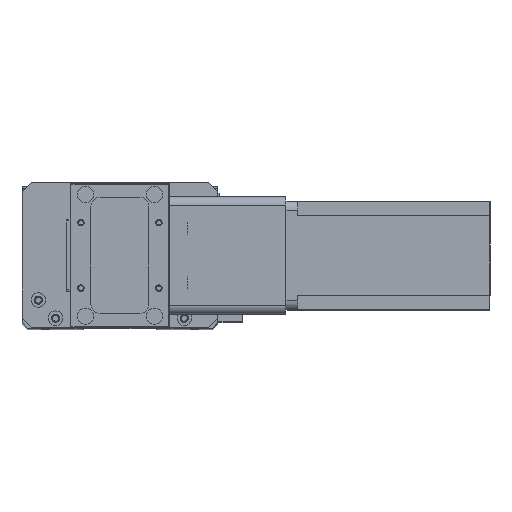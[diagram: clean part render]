
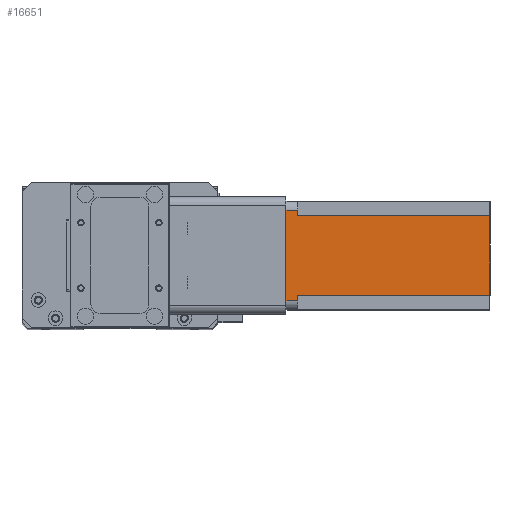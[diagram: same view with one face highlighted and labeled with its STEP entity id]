
A CAD part, top view. The second image highlights one B-rep face of the part: STEP entity #16651.
In plain terms, the highlighted planar face has unit normal (0, 0, 1) as drawn and (0, 1, 0) by its records, which use the part's own axes.
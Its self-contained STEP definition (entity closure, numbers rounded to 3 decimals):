
#108 = VECTOR ( 'NONE', #2282, 1000. ) ;
#242 = DIRECTION ( 'NONE',  ( -1., 0., 0. ) ) ;
#330 = EDGE_CURVE ( 'NONE', #23349, #15831, #16553, .T. ) ;
#555 = CARTESIAN_POINT ( 'NONE',  ( 52., 60., -112.5 ) ) ;
#1102 = ORIENTED_EDGE ( 'NONE', *, *, #19502, .F. ) ;
#1399 = ORIENTED_EDGE ( 'NONE', *, *, #23748, .T. ) ;
#1492 = CARTESIAN_POINT ( 'NONE',  ( 55., 60., -6.5 ) ) ;
#1568 = DIRECTION ( 'NONE',  ( -1., 0., 0. ) ) ;
#2282 = DIRECTION ( 'NONE',  ( 1., 0., 0. ) ) ;
#2860 = LINE ( 'NONE', #21331, #23257 ) ;
#4199 = DIRECTION ( 'NONE',  ( 0., 0., -1. ) ) ;
#4335 = CARTESIAN_POINT ( 'NONE',  ( 5., 60., 0. ) ) ;
#4733 = CARTESIAN_POINT ( 'NONE',  ( 0., 60., -112.5 ) ) ;
#4917 = ORIENTED_EDGE ( 'NONE', *, *, #24874, .F. ) ;
#5422 = VECTOR ( 'NONE', #6680, 1000. ) ;
#5555 = ORIENTED_EDGE ( 'NONE', *, *, #18980, .F. ) ;
#5786 = DIRECTION ( 'NONE',  ( 0., 0., 1. ) ) ;
#6238 = LINE ( 'NONE', #23933, #16189 ) ;
#6680 = DIRECTION ( 'NONE',  ( 0., 0., 1. ) ) ;
#6716 = DIRECTION ( 'NONE',  ( 0., 1., 0. ) ) ;
#8076 = CARTESIAN_POINT ( 'NONE',  ( 55., 60., -112.5 ) ) ;
#8234 = CARTESIAN_POINT ( 'NONE',  ( 52., 60., -6.5 ) ) ;
#8726 = ORIENTED_EDGE ( 'NONE', *, *, #17876, .T. ) ;
#9145 = LINE ( 'NONE', #8076, #24293 ) ;
#9449 = CARTESIAN_POINT ( 'NONE',  ( 0., 60., -112.5 ) ) ;
#9644 = LINE ( 'NONE', #9449, #20144 ) ;
#10680 = VERTEX_POINT ( 'NONE', #10722 ) ;
#10722 = CARTESIAN_POINT ( 'NONE',  ( 8., 60., -112.5 ) ) ;
#10733 = CARTESIAN_POINT ( 'NONE',  ( 8., 60., -6.5 ) ) ;
#11043 = FACE_OUTER_BOUND ( 'NONE', #17840, .T. ) ;
#11311 = VERTEX_POINT ( 'NONE', #555 ) ;
#11677 = ORIENTED_EDGE ( 'NONE', *, *, #330, .F. ) ;
#11778 = DIRECTION ( 'NONE',  ( 0., 0., -1. ) ) ;
#11929 = VERTEX_POINT ( 'NONE', #12769 ) ;
#12607 = VECTOR ( 'NONE', #5786, 1000. ) ;
#12769 = CARTESIAN_POINT ( 'NONE',  ( 55., 60., 0. ) ) ;
#13510 = ORIENTED_EDGE ( 'NONE', *, *, #18031, .T. ) ;
#14317 = CARTESIAN_POINT ( 'NONE',  ( 52., 60., -6.5 ) ) ;
#15114 = AXIS2_PLACEMENT_3D ( 'NONE', #4733, #6716, #20557 ) ;
#15472 = DIRECTION ( 'NONE',  ( -1., 0., 0. ) ) ;
#15831 = VERTEX_POINT ( 'NONE', #1492 ) ;
#15959 = LINE ( 'NONE', #20519, #5422 ) ;
#16189 = VECTOR ( 'NONE', #242, 1000. ) ;
#16207 = CARTESIAN_POINT ( 'NONE',  ( 5., 60., -6.5 ) ) ;
#16553 = LINE ( 'NONE', #14317, #108 ) ;
#16651 = ADVANCED_FACE ( 'NONE', ( #11043 ), #20384, .T. ) ;
#17840 = EDGE_LOOP ( 'NONE', ( #1102, #8726, #11677, #4917, #1399, #5555, #24370, #13510 ) ) ;
#17876 = EDGE_CURVE ( 'NONE', #11929, #15831, #9145, .T. ) ;
#18031 = EDGE_CURVE ( 'NONE', #20866, #19154, #15959, .T. ) ;
#18980 = EDGE_CURVE ( 'NONE', #24662, #10680, #25140, .T. ) ;
#19154 = VERTEX_POINT ( 'NONE', #4335 ) ;
#19502 = EDGE_CURVE ( 'NONE', #11929, #19154, #2860, .T. ) ;
#19610 = CARTESIAN_POINT ( 'NONE',  ( 52., 60., -112.5 ) ) ;
#19876 = VECTOR ( 'NONE', #11778, 1000. ) ;
#20144 = VECTOR ( 'NONE', #1568, 1000. ) ;
#20384 = PLANE ( 'NONE',  #15114 ) ;
#20519 = CARTESIAN_POINT ( 'NONE',  ( 5., 60., -112.5 ) ) ;
#20557 = DIRECTION ( 'NONE',  ( 0., 0., 1. ) ) ;
#20866 = VERTEX_POINT ( 'NONE', #16207 ) ;
#21331 = CARTESIAN_POINT ( 'NONE',  ( 0., 60., 0. ) ) ;
#22492 = LINE ( 'NONE', #19610, #12607 ) ;
#23146 = EDGE_CURVE ( 'NONE', #24662, #20866, #6238, .T. ) ;
#23257 = VECTOR ( 'NONE', #15472, 1000. ) ;
#23349 = VERTEX_POINT ( 'NONE', #8234 ) ;
#23748 = EDGE_CURVE ( 'NONE', #11311, #10680, #9644, .T. ) ;
#23933 = CARTESIAN_POINT ( 'NONE',  ( 8., 60., -6.5 ) ) ;
#24293 = VECTOR ( 'NONE', #4199, 1000. ) ;
#24370 = ORIENTED_EDGE ( 'NONE', *, *, #23146, .T. ) ;
#24662 = VERTEX_POINT ( 'NONE', #10733 ) ;
#24874 = EDGE_CURVE ( 'NONE', #11311, #23349, #22492, .T. ) ;
#25140 = LINE ( 'NONE', #25585, #19876 ) ;
#25585 = CARTESIAN_POINT ( 'NONE',  ( 8., 60., -112.5 ) ) ;
